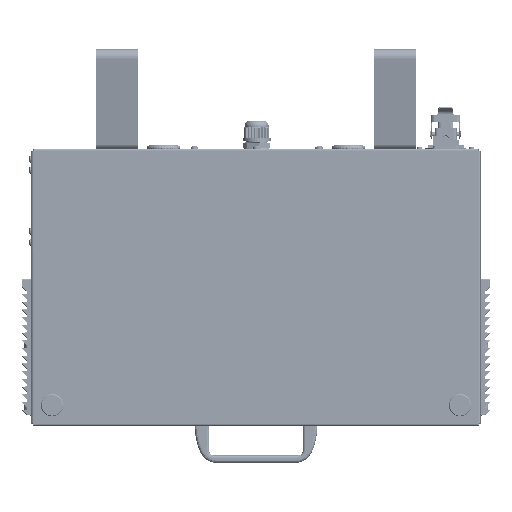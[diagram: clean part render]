
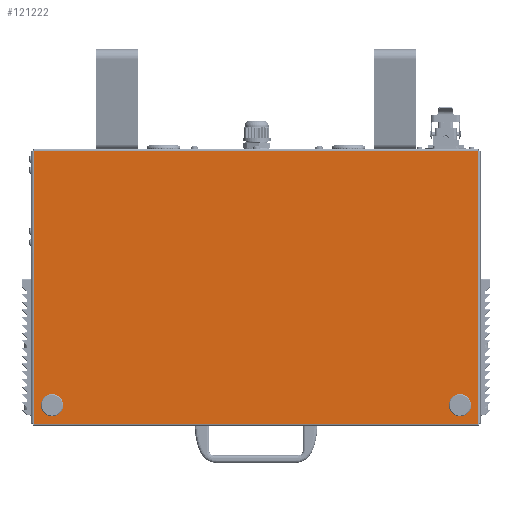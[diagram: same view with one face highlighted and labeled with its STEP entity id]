
A CAD part, front view. The second image highlights one B-rep face of the part: STEP entity #121222.
In plain terms, the highlighted planar face has unit normal (0, -1, 0).
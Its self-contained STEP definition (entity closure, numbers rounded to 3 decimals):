
#5136 = EDGE_CURVE ( 'NONE', #250810, #228720, #40938, .T. ) ;
#5399 = VECTOR ( 'NONE', #287119, 1000. ) ;
#6696 = DIRECTION ( 'NONE',  ( 0., -1., 0. ) ) ;
#8568 = LINE ( 'NONE', #259479, #12919 ) ;
#12317 = ORIENTED_EDGE ( 'NONE', *, *, #134307, .F. ) ;
#12606 = EDGE_CURVE ( 'NONE', #306040, #322767, #199016, .T. ) ;
#12919 = VECTOR ( 'NONE', #267577, 1000. ) ;
#13792 = EDGE_CURVE ( 'NONE', #40507, #224370, #8568, .T. ) ;
#18255 = VERTEX_POINT ( 'NONE', #28543 ) ;
#20119 = CARTESIAN_POINT ( 'NONE',  ( 239.837, -1.2, 147.5 ) ) ;
#23594 = CARTESIAN_POINT ( 'NONE',  ( -240.793, -1.2, 147.793 ) ) ;
#28543 = CARTESIAN_POINT ( 'NONE',  ( 240.5, -1.2, -146.837 ) ) ;
#34035 = ORIENTED_EDGE ( 'NONE', *, *, #294632, .F. ) ;
#38042 = VECTOR ( 'NONE', #102461, 1000. ) ;
#40507 = VERTEX_POINT ( 'NONE', #323755 ) ;
#40938 = CIRCLE ( 'NONE', #70132, 4. ) ;
#42430 = EDGE_CURVE ( 'NONE', #257822, #228882, #226685, .T. ) ;
#46324 = VERTEX_POINT ( 'NONE', #342099 ) ;
#46620 = EDGE_CURVE ( 'NONE', #322767, #46324, #55073, .T. ) ;
#50093 = AXIS2_PLACEMENT_3D ( 'NONE', #165911, #6696, #243361 ) ;
#55073 = CIRCLE ( 'NONE', #291063, 1. ) ;
#70132 = AXIS2_PLACEMENT_3D ( 'NONE', #87407, #272249, #93161 ) ;
#82298 = VERTEX_POINT ( 'NONE', #304657 ) ;
#87407 = CARTESIAN_POINT ( 'NONE',  ( 220.5, -1.2, -127.5 ) ) ;
#89055 = EDGE_LOOP ( 'NONE', ( #267695, #199213, #132757, #230221, #34035, #236150, #340970, #12317 ) ) ;
#93161 = DIRECTION ( 'NONE',  ( 0., 0., -1. ) ) ;
#94079 = AXIS2_PLACEMENT_3D ( 'NONE', #120544, #277683, #333056 ) ;
#102321 = AXIS2_PLACEMENT_3D ( 'NONE', #238395, #133307, #210655 ) ;
#102461 = DIRECTION ( 'NONE',  ( 1., 0., 0. ) ) ;
#108440 = LINE ( 'NONE', #283714, #5399 ) ;
#115826 = DIRECTION ( 'NONE',  ( 0., 0., 1. ) ) ;
#120544 = CARTESIAN_POINT ( 'NONE',  ( 220.5, -1.2, -127.5 ) ) ;
#121222 = ADVANCED_FACE ( 'NONE', ( #174475, #219829, #157931 ), #138908, .F. ) ;
#121614 = AXIS2_PLACEMENT_3D ( 'NONE', #217392, #218539, #115826 ) ;
#127086 = CARTESIAN_POINT ( 'NONE',  ( -239.837, -1.2, 147.5 ) ) ;
#132757 = ORIENTED_EDGE ( 'NONE', *, *, #279899, .F. ) ;
#133307 = DIRECTION ( 'NONE',  ( 0., -1., 0. ) ) ;
#134307 = EDGE_CURVE ( 'NONE', #46324, #18255, #181816, .T. ) ;
#138908 = PLANE ( 'NONE',  #121614 ) ;
#148701 = ORIENTED_EDGE ( 'NONE', *, *, #227112, .F. ) ;
#152318 = DIRECTION ( 'NONE',  ( 0., -1., 0. ) ) ;
#155346 = DIRECTION ( 'NONE',  ( 0., 0., -1. ) ) ;
#156151 = DIRECTION ( 'NONE',  ( 0., 0., -1. ) ) ;
#157931 = FACE_BOUND ( 'NONE', #197227, .T. ) ;
#159598 = EDGE_CURVE ( 'NONE', #228882, #257822, #211387, .T. ) ;
#164973 = ORIENTED_EDGE ( 'NONE', *, *, #5136, .F. ) ;
#165911 = CARTESIAN_POINT ( 'NONE',  ( -240.793, -1.2, -147.793 ) ) ;
#174475 = FACE_OUTER_BOUND ( 'NONE', #89055, .T. ) ;
#177679 = CARTESIAN_POINT ( 'NONE',  ( 240.793, -1.2, 147.793 ) ) ;
#178819 = DIRECTION ( 'NONE',  ( 0., 0., -1. ) ) ;
#181187 = VERTEX_POINT ( 'NONE', #330818 ) ;
#181816 = LINE ( 'NONE', #208046, #194369 ) ;
#183460 = CARTESIAN_POINT ( 'NONE',  ( 220.5, -1.2, -123.5 ) ) ;
#184376 = CIRCLE ( 'NONE', #50093, 1. ) ;
#186587 = AXIS2_PLACEMENT_3D ( 'NONE', #23594, #313453, #207122 ) ;
#194369 = VECTOR ( 'NONE', #156151, 1000. ) ;
#197179 = CIRCLE ( 'NONE', #186587, 1. ) ;
#197227 = EDGE_LOOP ( 'NONE', ( #148701, #164973 ) ) ;
#199016 = LINE ( 'NONE', #260690, #38042 ) ;
#199213 = ORIENTED_EDGE ( 'NONE', *, *, #12606, .F. ) ;
#207122 = DIRECTION ( 'NONE',  ( 0., 0., -1. ) ) ;
#208046 = CARTESIAN_POINT ( 'NONE',  ( 240.5, -1.2, 0. ) ) ;
#210655 = DIRECTION ( 'NONE',  ( 0., 0., -1. ) ) ;
#211387 = CIRCLE ( 'NONE', #239964, 4. ) ;
#216353 = EDGE_CURVE ( 'NONE', #181187, #82298, #108440, .T. ) ;
#217392 = CARTESIAN_POINT ( 'NONE',  ( 0., -1.2, 0. ) ) ;
#218539 = DIRECTION ( 'NONE',  ( 0., 1., 0. ) ) ;
#219829 = FACE_BOUND ( 'NONE', #277027, .T. ) ;
#223175 = ORIENTED_EDGE ( 'NONE', *, *, #159598, .F. ) ;
#224370 = VERTEX_POINT ( 'NONE', #258225 ) ;
#224553 = CIRCLE ( 'NONE', #94079, 4. ) ;
#226685 = CIRCLE ( 'NONE', #102321, 4. ) ;
#227112 = EDGE_CURVE ( 'NONE', #228720, #250810, #224553, .T. ) ;
#228720 = VERTEX_POINT ( 'NONE', #246019 ) ;
#228882 = VERTEX_POINT ( 'NONE', #334889 ) ;
#230221 = ORIENTED_EDGE ( 'NONE', *, *, #216353, .F. ) ;
#236150 = ORIENTED_EDGE ( 'NONE', *, *, #13792, .F. ) ;
#236191 = DIRECTION ( 'NONE',  ( 0., 0., -1. ) ) ;
#238395 = CARTESIAN_POINT ( 'NONE',  ( -220.5, -1.2, -127.5 ) ) ;
#239964 = AXIS2_PLACEMENT_3D ( 'NONE', #292804, #265044, #236191 ) ;
#243361 = DIRECTION ( 'NONE',  ( 0., 0., -1. ) ) ;
#246019 = CARTESIAN_POINT ( 'NONE',  ( 220.5, -1.2, -131.5 ) ) ;
#248414 = AXIS2_PLACEMENT_3D ( 'NONE', #309085, #282548, #155346 ) ;
#250810 = VERTEX_POINT ( 'NONE', #183460 ) ;
#257822 = VERTEX_POINT ( 'NONE', #277719 ) ;
#258225 = CARTESIAN_POINT ( 'NONE',  ( -239.837, -1.2, -147.5 ) ) ;
#259479 = CARTESIAN_POINT ( 'NONE',  ( 0., -1.2, -147.5 ) ) ;
#260690 = CARTESIAN_POINT ( 'NONE',  ( 0., -1.2, 147.5 ) ) ;
#262872 = CIRCLE ( 'NONE', #248414, 1. ) ;
#265044 = DIRECTION ( 'NONE',  ( 0., -1., 0. ) ) ;
#267577 = DIRECTION ( 'NONE',  ( -1., 0., 0. ) ) ;
#267695 = ORIENTED_EDGE ( 'NONE', *, *, #46620, .F. ) ;
#272249 = DIRECTION ( 'NONE',  ( 0., -1., 0. ) ) ;
#277027 = EDGE_LOOP ( 'NONE', ( #223175, #283178 ) ) ;
#277683 = DIRECTION ( 'NONE',  ( 0., -1., 0. ) ) ;
#277719 = CARTESIAN_POINT ( 'NONE',  ( -220.5, -1.2, -123.5 ) ) ;
#279899 = EDGE_CURVE ( 'NONE', #82298, #306040, #197179, .T. ) ;
#282548 = DIRECTION ( 'NONE',  ( 0., -1., 0. ) ) ;
#283178 = ORIENTED_EDGE ( 'NONE', *, *, #42430, .F. ) ;
#283714 = CARTESIAN_POINT ( 'NONE',  ( -240.5, -1.2, 0. ) ) ;
#287119 = DIRECTION ( 'NONE',  ( 0., 0., 1. ) ) ;
#290341 = EDGE_CURVE ( 'NONE', #18255, #40507, #262872, .T. ) ;
#291063 = AXIS2_PLACEMENT_3D ( 'NONE', #177679, #152318, #178819 ) ;
#292804 = CARTESIAN_POINT ( 'NONE',  ( -220.5, -1.2, -127.5 ) ) ;
#294632 = EDGE_CURVE ( 'NONE', #224370, #181187, #184376, .T. ) ;
#304657 = CARTESIAN_POINT ( 'NONE',  ( -240.5, -1.2, 146.837 ) ) ;
#306040 = VERTEX_POINT ( 'NONE', #127086 ) ;
#309085 = CARTESIAN_POINT ( 'NONE',  ( 240.793, -1.2, -147.793 ) ) ;
#313453 = DIRECTION ( 'NONE',  ( 0., -1., 0. ) ) ;
#322767 = VERTEX_POINT ( 'NONE', #20119 ) ;
#323755 = CARTESIAN_POINT ( 'NONE',  ( 239.837, -1.2, -147.5 ) ) ;
#330818 = CARTESIAN_POINT ( 'NONE',  ( -240.5, -1.2, -146.837 ) ) ;
#333056 = DIRECTION ( 'NONE',  ( 0., 0., -1. ) ) ;
#334889 = CARTESIAN_POINT ( 'NONE',  ( -220.5, -1.2, -131.5 ) ) ;
#340970 = ORIENTED_EDGE ( 'NONE', *, *, #290341, .F. ) ;
#342099 = CARTESIAN_POINT ( 'NONE',  ( 240.5, -1.2, 146.837 ) ) ;
